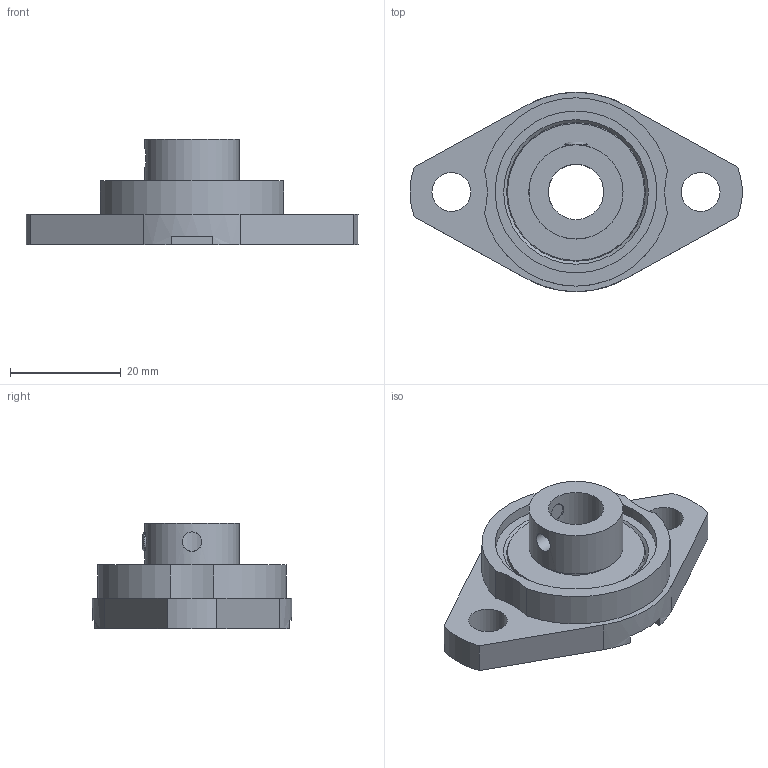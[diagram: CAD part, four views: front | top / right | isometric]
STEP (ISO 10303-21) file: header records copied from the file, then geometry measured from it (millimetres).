
FILE_DESCRIPTION((''),'2;1');
FILE_NAME('\\Ts-tgl068\j-cad-d-base\00.3DCADデータ作成フォルダ\11.エコシリーズ\MUSFL000\MUSFL000.stp','2014-11-12T09:41:21',('btec_1106_2'),(''),'Autodesk Inventor 2012','Autodesk Inventor 2012','');
FILE_SCHEMA(('AUTOMOTIVE_DESIGN { 1 0 10303 214 1 1 1 1 }'));
Length unit declared in the file: millimetre
Products named in the file (3): MUSFL000; SFL000; U000
Assembly tree (2 placements, depth 2):
  MUSFL000
    SFL000
    U000
Bounding box: 59.94 x 36 x 19 mm (x, y, z)
Volume: 11002.1 mm3; surface area: 7074 mm2
Topology: 2 solids, 2 shells, 74 faces, 188 edges, 123 vertices
Faces by surface type: plane 39, cylinder 30, cone 3, sphere 2
Full cylindrical faces by diameter (mm): 3.5 x1, 4 x1, 7 x2, 10 x1, 14.8 x1, 17 x1, 29.2 x1
Entity records: 2338 total; most frequent: CARTESIAN_POINT 497, DIRECTION 386, ORIENTED_EDGE 334, EDGE_CURVE 167, AXIS2_PLACEMENT_3D 146, VERTEX_POINT 117, EDGE_LOOP 104, VECTOR 94
